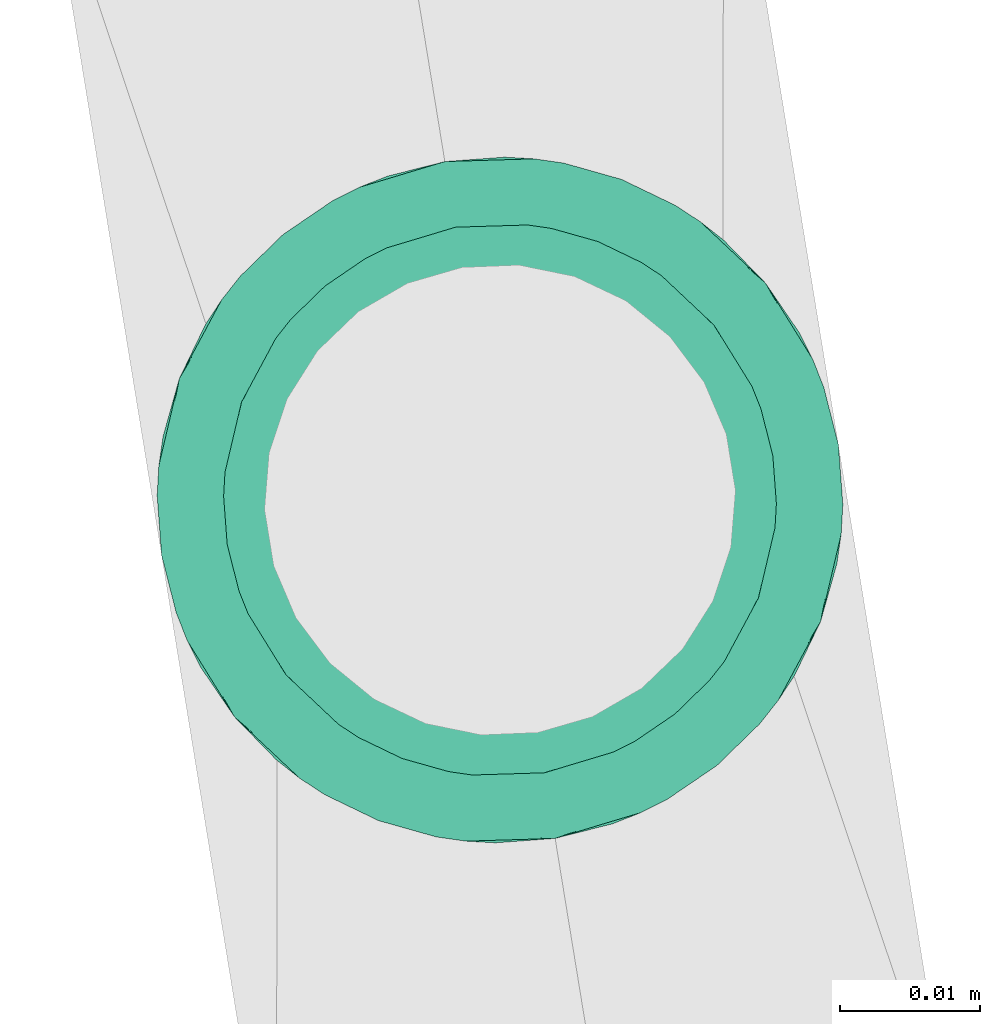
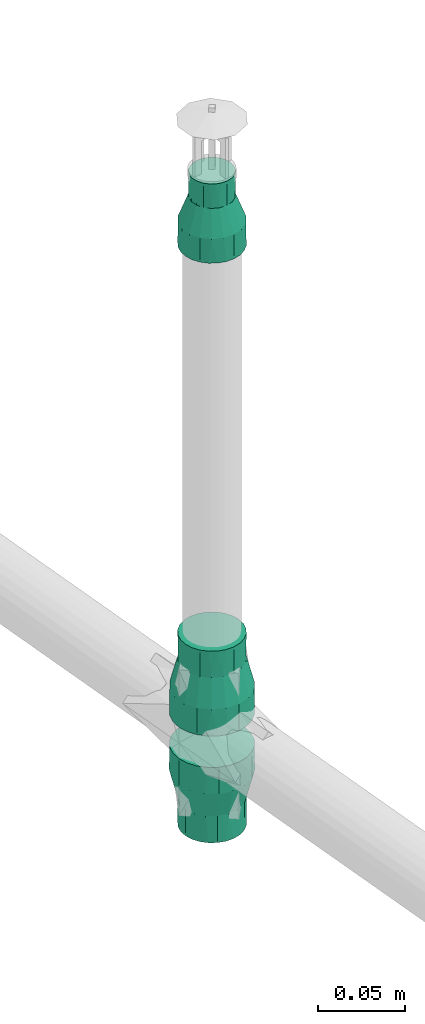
# One storey, part 35 of 56: 3 flow fittings.
"""IFC2X3 building model written with IfcOpenShell, lengths in millimetres."""

from ifc_helpers import new_model, entity, si_unit, converted_unit, derived_unit, direction, frame, origin, origin_with_axes, place, context, subcontext, project, spatial, faceted_brep, source, transform, mapped, material, type_object, element, save


model = new_model("IFC2X3")

# Units and contexts
model_context = context("Model", 3, precision=0.01, world=origin(), true_north=direction((6.12323399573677e-17, 1.0)))
plan_context = context("Plan", 3, precision=1e-05, world=origin_with_axes())
body_context = subcontext(model_context, "Body", "Model", "MODEL_VIEW")
ifc_project = project(units=[converted_unit("PLANEANGLEUNIT", "DEGREE", entity("IfcPositiveLengthMeasure", 0.0174532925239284), si_unit("PLANEANGLEUNIT", "RADIAN"), dimensions=[0, 0, 0, 0, 0, 0, 0]), si_unit("AREAUNIT", "SQUARE_METRE"), si_unit("LENGTHUNIT", "METRE", prefix="MILLI"), si_unit("MASSUNIT", "GRAM", prefix="KILO"), si_unit("POWERUNIT", "WATT"), si_unit("PRESSUREUNIT", "PASCAL", prefix="KILO"), si_unit("FORCEUNIT", "NEWTON", prefix="KILO"), si_unit("ELECTRICVOLTAGEUNIT", "VOLT"), si_unit("ELECTRICCURRENTUNIT", "AMPERE"), si_unit("THERMODYNAMICTEMPERATUREUNIT", "DEGREE_CELSIUS"), si_unit("TIMEUNIT", "SECOND"), si_unit("VOLUMEUNIT", "CUBIC_METRE"), derived_unit("LINEARVELOCITYUNIT", [(si_unit("LENGTHUNIT", "METRE"), 1), (si_unit("TIMEUNIT", "SECOND"), -1)]), derived_unit("VOLUMETRICFLOWRATEUNIT", [(si_unit("VOLUMEUNIT", "CUBIC_METRE"), 1), (si_unit("TIMEUNIT", "SECOND"), -1)]), derived_unit("THERMALTRANSMITTANCEUNIT", [(si_unit("POWERUNIT", "WATT"), 1), (si_unit("THERMODYNAMICTEMPERATUREUNIT", "KELVIN"), -1), (si_unit("AREAUNIT", "SQUARE_METRE"), -1)]), derived_unit("SOUNDPRESSUREUNIT", [(si_unit("PRESSUREUNIT", "PASCAL"), 1)])], contexts=[model_context, plan_context])

# Site, building, storey
site_placement = place(None, frame((-3.09682673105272e-06, 1.93776733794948e-05, 0.0), z_axis=(0.0, 0.0, 1.0), x_axis=(-0.160806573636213, 0.986985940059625, 0.0)))
site = spatial("IfcSite", under=ifc_project, at=site_placement, Name="Default", CompositionType="ELEMENT")
building_placement = place(site_placement, frame((0.0, 0.0, 0.0), z_axis=(0.0, 0.0, 1.0), x_axis=(1.0, -2.77555756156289e-17, 0.0)))
building = spatial("IfcBuilding", under=site, at=building_placement, Name="Bygning (endres i Project Information)", CompositionType="ELEMENT")
storey_placement = place(building_placement, frame((0.0, 0.0, 51360.0000000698), z_axis=(0.0, 0.0, 1.0), x_axis=(1.0, -2.77555756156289e-17, 0.0)))
storey = spatial("IfcBuildingStorey", under=building, at=storey_placement, Name="H01-Nivå D+0,36", CompositionType="ELEMENT", Elevation=51360.0000000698)

# Flow fittings
ifc_material = material(Name="3320.001")
pipe_fitting_type_1 = type_object("IfcPipeFittingType", Name="RS_53_PIF_UN_Reducing-Socket-EN10241_MC_gen:RS_53_PIF_UN_Reducing-Socket-EN10241_MC_gen", PredefinedType="NOTDEFINED", material=ifc_material)
shared_shape_1 = source(origin(), body_context, "Body", "Brep", [
    faceted_brep([(0.0, 5.11167614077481, 19.0770350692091), (0.0, 9.87500000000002, 17.1040017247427), (0.0, 13.9653589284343, 13.9653589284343), (0.0, 17.1040017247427, 9.87499999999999), (0.0, 19.0770350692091, 5.11167614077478), (0.0, 19.75, 0.0), (0.0, 19.0770350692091, -5.1116761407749), (0.0, 17.1040017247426, -9.8750000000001), (0.0, 13.9653589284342, -13.9653589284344), (0.0, 9.87499999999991, -17.1040017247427), (0.0, 5.11167614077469, -19.0770350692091), (0.0, 0.0, -19.75), (0.0, -5.11167614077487, -19.0770350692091), (0.0, -9.87500000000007, -17.1040017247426), (0.0, -13.9653589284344, -13.9653589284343), (0.0, -17.1040017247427, -9.87499999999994), (0.0, -19.0770350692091, -5.11167614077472), (0.0, -19.75, 0.0), (0.0, -19.0770350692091, 5.11167614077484), (0.0, -17.1040017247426, 9.87500000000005), (0.0, -13.9653589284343, 13.9653589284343), (0.0, -9.87499999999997, 17.1040017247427), (0.0, -5.11167614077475, 19.0770350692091), (0.0, 0.0, 19.75), (17.0, -6.65118285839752, -18.277344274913), (17.0, -15.1289479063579, -12.6955675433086), (17.0, -16.8438814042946, -9.72538978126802), (17.0, -18.5588149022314, -6.7552120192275), (17.0, -9.87413131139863, -17.1045032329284), (17.0, -12.5015396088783, -14.9000353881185), (17.0, -19.1544074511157, -3.37760600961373), (17.0, -3.42823440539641, -19.4501853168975), (17.0, 3.43119786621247, -19.4496627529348), (17.0, 0.0014817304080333, -19.4499240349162), (17.0, -19.75, 0.0), (17.0, 6.65396758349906, -18.2763306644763), (17.0, 9.87673730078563, -17.1029985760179), (17.0, 18.5598439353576, -6.75238425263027), (17.0, 16.8453630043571, -9.7228232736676), (17.0, 15.1308820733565, -12.6932622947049), (17.0, 12.5038096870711, -14.8981304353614), (17.0, 19.75, 0.0), (17.0, 15.1308820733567, 12.6932622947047), (17.0, 16.8453630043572, 9.72282327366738), (17.0, 18.5598439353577, 6.75238425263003), (17.0, 9.87673730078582, 17.1029985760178), (17.0, 12.5038096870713, 14.8981304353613), (17.0, 3.43119786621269, 19.4496627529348), (17.0, 6.65396758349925, 18.2763306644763), (17.0, -3.4282344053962, 19.4501853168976), (17.0, 0.00148173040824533, 19.4499240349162), (17.0, -15.1289479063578, 12.6955675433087), (17.0, -6.65118285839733, 18.277344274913), (17.0, -9.87413131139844, 17.1045032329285), (17.0, -12.5015396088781, 14.9000353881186), (17.0, -19.1544074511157, 3.37760600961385), (17.0, -18.5588149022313, 6.75521201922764), (17.0, -16.8438814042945, 9.72538978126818), (34.0, 13.5000000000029, 0.0), (34.0, 12.6868795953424, -4.61444320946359), (34.0, -4.54589529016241, -12.4935366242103), (34.0, -2.34276817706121, -13.2951659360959), (34.0, 6.75195505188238, -11.6902139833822), (34.0, 0.00166747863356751, -13.2948718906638), (34.0, 2.34610313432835, -13.2945778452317), (34.0, 10.3432928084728, -8.67561489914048), (34.0, 8.54762393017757, -10.1829144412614), (34.0, 4.54902909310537, -12.492395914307), (34.0, 11.5150862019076, -6.64502905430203), (34.0, -6.74902240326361, -11.6919073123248), (34.0, -13.4999999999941, 0.0), (34.0, -13.0928608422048, -2.30881275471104), (34.0, -10.3411162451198, -8.6782091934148), (34.0, -8.54506932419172, -10.1850582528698), (34.0, -12.6857216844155, -4.61762550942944), (34.0, -11.5134189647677, -6.64791735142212), (34.0, -13.0928608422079, 2.30881275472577), (34.0, -12.6857216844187, 4.6176255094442), (34.0, 2.34610313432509, 13.2945778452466), (34.0, 4.54902909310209, 12.4923959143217), (34.0, -10.3411162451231, 8.67820919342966), (34.0, 0.00166747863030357, 13.2948718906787), (34.0, -6.74902240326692, 11.6919073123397), (34.0, -8.54506932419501, 10.1850582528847), (34.0, -11.5134189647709, 6.64791735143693), (34.0, -2.34276817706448, 13.2951659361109), (34.0, -4.5458952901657, 12.4935366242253), (34.0, 12.6868795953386, 4.61444320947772), (34.0, 11.5150862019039, 6.64502905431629), (34.0, 10.3432928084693, 8.67561489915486), (34.0, 6.7519550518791, 11.6902139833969), (34.0, 8.54762393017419, 10.1829144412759), (51.0, 3.49405710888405, -13.0399986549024), (51.0, 6.75000000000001, -11.6913429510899), (51.0, 9.5459415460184, -9.54594154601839), (51.0, 11.6913429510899, -6.74999999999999), (51.0, 13.0399986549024, -3.49405710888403), (51.0, 13.5, 0.0), (51.0, 13.0399986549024, 3.49405710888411), (51.0, 11.6913429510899, 6.75000000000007), (51.0, 9.54594154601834, 9.54594154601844), (51.0, 6.74999999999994, 11.69134295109), (51.0, 3.49405710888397, 13.0399986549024), (51.0, 0.0, 13.5), (51.0, -3.49405710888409, 13.0399986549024), (51.0, -6.75000000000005, 11.6913429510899), (51.0, -9.54594154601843, 9.54594154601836), (51.0, -11.6913429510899, 6.74999999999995), (51.0, -13.0399986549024, 3.49405710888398), (51.0, -13.5, 0.0), (51.0, -13.0399986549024, -3.49405710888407), (51.0, -11.6913429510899, -6.75000000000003), (51.0, -9.54594154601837, -9.54594154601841), (51.0, -6.74999999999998, -11.6913429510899), (51.0, -3.49405710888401, -13.0399986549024), (51.0, 0.0, -13.5)], [[[0, 1, 2, 3, 4, 5, 6, 7, 8, 9, 10, 11, 12, 13, 14, 15, 16, 17, 18, 19, 20, 21, 22, 23]], [[24, 13, 12]], [[15, 14, 25]], [[15, 25, 26, 27]], [[28, 29, 13]], [[16, 27, 30]], [[30, 17, 16]], [[15, 27, 16]], [[12, 31, 24]], [[25, 14, 29]], [[11, 32, 33, 31]], [[24, 28, 13]], [[13, 29, 14]], [[30, 34, 17]], [[32, 11, 10]], [[35, 9, 36]], [[7, 37, 38, 39]], [[9, 35, 10]], [[7, 6, 37]], [[8, 39, 40]], [[32, 10, 35]], [[7, 39, 8]], [[40, 36, 9]], [[6, 41, 37]], [[6, 5, 41]], [[11, 31, 12]], [[40, 9, 8]], [[41, 5, 4]], [[3, 2, 42]], [[3, 42, 43, 44]], [[45, 46, 1]], [[44, 41, 4]], [[0, 47, 48]], [[42, 2, 46]], [[23, 49, 50, 47]], [[1, 46, 2]], [[49, 23, 22]], [[19, 51, 20]], [[52, 21, 53]], [[3, 44, 4]], [[48, 45, 1]], [[54, 53, 21]], [[17, 34, 55]], [[21, 52, 22]], [[20, 51, 54]], [[49, 22, 52]], [[48, 1, 0]], [[17, 55, 18]], [[56, 19, 18]], [[18, 55, 56]], [[54, 21, 20]], [[57, 51, 19, 56]], [[23, 47, 0]], [[41, 58, 59]], [[60, 31, 61]], [[40, 62, 36]], [[63, 32, 64]], [[65, 39, 38]], [[64, 32, 35]], [[61, 33, 63]], [[37, 41, 59]], [[62, 40, 66]], [[40, 39, 66]], [[35, 36, 67]], [[65, 38, 68]], [[37, 68, 38]], [[64, 35, 67]], [[61, 31, 33]], [[69, 28, 24]], [[69, 24, 60]], [[70, 30, 71]], [[72, 29, 73]], [[30, 70, 34]], [[74, 27, 26]], [[68, 37, 59]], [[72, 25, 29]], [[27, 74, 71]], [[31, 60, 24]], [[29, 28, 73]], [[75, 26, 25]], [[67, 36, 62]], [[66, 39, 65]], [[27, 71, 30]], [[74, 26, 75]], [[73, 28, 69]], [[63, 33, 32]], [[75, 25, 72]], [[56, 76, 77]], [[48, 78, 79]], [[54, 51, 80]], [[81, 47, 50]], [[57, 56, 77]], [[52, 53, 82]], [[82, 53, 83]], [[55, 70, 76]], [[70, 55, 34]], [[84, 51, 57]], [[50, 85, 81]], [[56, 55, 76]], [[86, 49, 52]], [[83, 53, 54]], [[81, 78, 47]], [[48, 47, 78]], [[80, 51, 84]], [[49, 85, 50]], [[87, 44, 88]], [[87, 58, 41]], [[43, 42, 89]], [[57, 77, 84]], [[46, 45, 90]], [[85, 49, 86]], [[88, 44, 43]], [[54, 80, 83]], [[91, 42, 46]], [[52, 82, 86]], [[89, 42, 91]], [[87, 41, 44]], [[90, 45, 79]], [[46, 90, 91]], [[79, 45, 48]], [[43, 89, 88]], [[92, 93, 94, 95, 96, 97, 98, 99, 100, 101, 102, 103, 104, 105, 106, 107, 108, 109, 110, 111, 112, 113, 114, 115]], [[58, 97, 96]], [[95, 94, 65]], [[95, 65, 68, 59]], [[62, 66, 93]], [[59, 58, 96]], [[92, 64, 67]], [[65, 94, 66]], [[115, 61, 63, 64]], [[93, 66, 94]], [[67, 93, 92]], [[67, 62, 93]], [[95, 59, 96]], [[114, 61, 115]], [[111, 110, 74]], [[73, 113, 112]], [[109, 71, 110]], [[111, 74, 75, 72]], [[109, 70, 71]], [[60, 61, 114]], [[113, 69, 60]], [[111, 72, 112]], [[113, 60, 114]], [[112, 72, 73]], [[115, 64, 92]], [[71, 74, 110]], [[73, 69, 113]], [[86, 105, 104]], [[107, 106, 80]], [[107, 80, 84, 77]], [[82, 83, 105]], [[108, 77, 76]], [[76, 70, 109]], [[76, 109, 108]], [[104, 85, 86]], [[80, 106, 83]], [[103, 78, 81, 85]], [[91, 101, 100]], [[105, 83, 106]], [[86, 82, 105]], [[78, 103, 102]], [[79, 101, 90]], [[99, 87, 88, 89]], [[101, 79, 102]], [[99, 98, 87]], [[100, 89, 91]], [[78, 102, 79]], [[103, 85, 104]], [[99, 89, 100]], [[98, 58, 87]], [[107, 77, 108]], [[98, 97, 58]], [[91, 90, 101]]]),
])
flow_fitting_1_placement = place(storey_placement, frame((997236.263254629, -389286.663841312, 3707.99999993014), z_axis=(2.77555756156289e-17, 1.0, 0.0), x_axis=(0.0, 0.0, 1.0)))
element("IfcFlowFitting", 1, at=flow_fitting_1_placement, inside=storey, type_object=pipe_fitting_type_1, material=ifc_material, Name="RS_53_PIF_UN_Reducing-Socket-EN10241_MC_gen:RS_53_PIF_UN_Reducing-Socket-EN10241_MC_gen", ObjectType="RS_53_PIF_UN_Reducing-Socket-EN10241_MC_gen:RS_53_PIF_UN_Reducing-Socket-EN10241_MC_gen", context=body_context, shape_type="MappedRepresentation", body=[
    mapped(shared_shape_1, transform((0.0, 0.0, 0.0), scale=1.0)),
])
pipe_fitting_type_2 = type_object("IfcPipeFittingType", Name="RS_53_PIF_UN_Reducing-Socket-EN10241_MC_gen:RS_53_PIF_UN_Reducing-Socket-EN10241_MC_gen", PredefinedType="NOTDEFINED", material=ifc_material)
shared_shape_2 = source(origin(), body_context, "Body", "Brep", [
    faceted_brep([(0.0, 0.0, 24.5), (0.0, 6.34106660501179, 23.6651827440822), (0.0, 12.25, 21.2176223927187), (0.0, 17.3241161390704, 17.3241161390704), (0.0, 21.2176223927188, 12.25), (0.0, 23.6651827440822, 6.34106660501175), (0.0, 24.5, 0.0), (0.0, 23.6651827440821, -6.34106660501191), (0.0, 21.2176223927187, -12.2500000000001), (0.0, 17.3241161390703, -17.3241161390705), (0.0, 12.2499999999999, -21.2176223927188), (0.0, 6.34106660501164, -23.6651827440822), (0.0, 0.0, -24.5), (0.0, -6.34106660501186, -23.6651827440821), (0.0, -12.2500000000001, -21.2176223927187), (0.0, -17.3241161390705, -17.3241161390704), (0.0, -21.2176223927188, -12.2499999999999), (0.0, -23.6651827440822, -6.34106660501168), (0.0, -24.5, 0.0), (0.0, -23.6651827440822, 6.34106660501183), (0.0, -21.2176223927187, 12.2500000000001), (0.0, -17.3241161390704, 17.3241161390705), (0.0, -12.25, 21.2176223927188), (0.0, -6.34106660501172, 23.6651827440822), (18.6666666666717, -8.25137606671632, -22.6729794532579), (18.6666666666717, -18.7677686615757, -15.7486780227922), (18.6666666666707, -20.8950763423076, -12.0642027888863), (18.6666666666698, -23.0223840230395, -8.37972755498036), (18.6666666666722, -12.2493529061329, -21.2179959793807), (18.6666666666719, -15.5085607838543, -18.4833370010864), (18.6666666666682, -23.7125607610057, -4.46565710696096), (18.6666666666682, -23.7611920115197, -4.18986377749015), (18.6666666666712, -4.25339922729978, -24.1279629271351), (18.6666666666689, 4.25560674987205, -24.1275736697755), (18.6666666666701, 0.00110376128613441, -24.1277682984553), (18.6666666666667, -24.5, 0.0), (18.6666666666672, 8.25345045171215, -22.6722244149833), (18.6666666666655, 12.2512941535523, -21.2168751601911), (18.6666666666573, 23.0231506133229, -8.37762113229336), (18.6666666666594, 20.8961800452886, -12.062290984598), (18.6666666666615, 18.7692094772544, -15.7469608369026), (18.6666666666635, 15.5102518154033, -18.4819179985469), (18.6666666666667, 24.5, 0.0), (18.6666666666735, 18.7692094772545, 15.7469608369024), (18.666666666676, 20.8961800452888, 12.0622909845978), (18.6666666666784, 23.023150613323, 8.3776211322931), (18.6666666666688, 12.2512941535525, 21.216875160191), (18.6666666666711, 15.5102518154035, 18.4819179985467), (18.6666666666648, 4.25560674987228, 24.1275736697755), (18.6666666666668, 8.25345045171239, 22.6722244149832), (18.6666666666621, -4.25339922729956, 24.1279629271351), (18.6666666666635, 0.00110376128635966, 24.1277682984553), (18.6666666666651, -23.7611920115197, 4.1898637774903), (18.6666666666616, -8.25137606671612, 22.672979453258), (18.666666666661, -12.2493529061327, 21.2179959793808), (18.6666666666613, -15.5085607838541, 18.4833370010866), (18.6666666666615, -18.7677686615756, 15.7486780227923), (18.6666666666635, -23.0223840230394, 8.37972755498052), (18.6666666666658, -23.7125607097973, 4.46565739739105), (18.6666666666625, -20.8950763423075, 12.0642027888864), (37.3333333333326, 19.750000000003, 0.0), (37.3333333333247, 18.5595959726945, -6.75306577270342), (37.3333333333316, 9.87626627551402, -17.1032705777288), (37.3333333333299, 12.5033702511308, -14.8985095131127), (37.3333333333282, 15.1304742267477, -12.6937484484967), (37.3333333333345, 3.43075149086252, -19.4497414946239), (37.333333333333, 6.65350888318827, -18.2765060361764), (37.3333333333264, 16.8450350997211, -9.72340711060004), (37.3333333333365, -3.42859151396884, -19.4501223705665), (37.3333333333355, 0.00107998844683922, -19.4499319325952), (37.3333333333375, -9.87436684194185, -17.1043672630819), (37.333333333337, -6.65147917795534, -18.2772448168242), (37.3333333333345, -19.1544229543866, -3.37756341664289), (37.3333333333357, -18.558845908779, -6.75512683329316), (37.3333333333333, -19.7499999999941, 0.0), (37.3333333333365, -16.8439551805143, -9.72527774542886), (37.3333333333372, -15.1290644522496, -12.6954286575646), (37.3333333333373, -12.5017156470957, -14.8998979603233), (37.3333333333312, -18.5588459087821, 6.755126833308), (37.3333333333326, -19.1544229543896, 3.37756341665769), (37.3333333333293, -15.1290644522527, 12.6954286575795), (37.3333333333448, 18.559595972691, 6.75306577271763), (37.3333333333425, 16.8450350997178, 9.72340711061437), (37.3333333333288, -9.87436684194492, 17.104367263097), (37.3333333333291, -12.5017156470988, 14.8998979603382), (37.3333333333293, -6.65147917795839, 18.2772448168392), (37.3333333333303, -16.8439551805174, 9.72527774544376), (37.333333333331, 0.00107998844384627, 19.4499319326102), (37.3333333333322, 3.43075149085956, 19.4497414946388), (37.3333333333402, 15.1304742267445, 12.6937484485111), (37.333333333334, 6.65350888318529, 18.2765060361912), (37.3333333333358, 9.87626627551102, 17.1032705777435), (37.333333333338, 12.5033702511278, 14.8985095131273), (37.3333333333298, -3.42859151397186, 19.4501223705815), (56.0, 5.11167614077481, -19.0770350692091), (56.0, 9.87500000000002, -17.1040017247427), (56.0, 13.9653589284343, -13.9653589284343), (56.0, 17.1040017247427, -9.87499999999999), (56.0, 19.0770350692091, -5.11167614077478), (56.0, 19.75, 0.0), (56.0, 19.0770350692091, 5.1116761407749), (56.0, 17.1040017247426, 9.8750000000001), (56.0, 13.9653589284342, 13.9653589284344), (56.0, 9.87499999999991, 17.1040017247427), (56.0, 5.11167614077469, 19.0770350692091), (56.0, 0.0, 19.75), (56.0, -5.11167614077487, 19.0770350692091), (56.0, -9.87500000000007, 17.1040017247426), (56.0, -13.9653589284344, 13.9653589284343), (56.0, -17.1040017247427, 9.87499999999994), (56.0, -19.0770350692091, 5.11167614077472), (56.0, -19.75, 0.0), (56.0, -19.0770350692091, -5.11167614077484), (56.0, -17.1040017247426, -9.87500000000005), (56.0, -13.9653589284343, -13.9653589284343), (56.0, -9.87499999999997, -17.1040017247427), (56.0, -5.11167614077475, -19.0770350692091), (56.0, 0.0, -19.75)], [[[0, 1, 2, 3, 4, 5, 6, 7, 8, 9, 10, 11, 12, 13, 14, 15, 16, 17, 18, 19, 20, 21, 22, 23]], [[24, 14, 13]], [[16, 15, 25]], [[16, 25, 26, 27]], [[28, 29, 14]], [[17, 27, 30, 31]], [[31, 18, 17]], [[16, 27, 17]], [[13, 32, 24]], [[25, 15, 29]], [[12, 33, 34, 32]], [[24, 28, 14]], [[14, 29, 15]], [[31, 35, 18]], [[33, 12, 11]], [[36, 10, 37]], [[8, 38, 39, 40]], [[10, 36, 11]], [[8, 7, 38]], [[9, 40, 41]], [[33, 11, 36]], [[8, 40, 9]], [[41, 37, 10]], [[7, 42, 38]], [[7, 6, 42]], [[12, 32, 13]], [[41, 10, 9]], [[42, 6, 5]], [[4, 3, 43]], [[4, 43, 44, 45]], [[46, 47, 2]], [[45, 42, 5]], [[1, 48, 49]], [[43, 3, 47]], [[0, 50, 51, 48]], [[2, 47, 3]], [[50, 0, 23]], [[0, 48, 1]], [[18, 52, 19]], [[53, 22, 54]], [[49, 2, 1]], [[55, 22, 21]], [[35, 52, 18]], [[4, 45, 5]], [[22, 53, 23]], [[21, 56, 55]], [[50, 23, 53]], [[49, 46, 2]], [[20, 56, 21]], [[57, 20, 19]], [[19, 52, 58, 57]], [[55, 54, 22]], [[59, 56, 20, 57]], [[42, 60, 61]], [[41, 62, 37]], [[63, 40, 64]], [[40, 39, 64]], [[33, 36, 65]], [[65, 36, 66]], [[38, 42, 61]], [[64, 39, 67]], [[41, 40, 63]], [[36, 37, 66]], [[62, 41, 63]], [[38, 67, 39]], [[68, 34, 69]], [[68, 32, 34]], [[24, 70, 28]], [[32, 68, 71]], [[72, 35, 31, 30]], [[73, 27, 26]], [[72, 74, 35]], [[26, 75, 73]], [[76, 25, 29]], [[29, 77, 76]], [[70, 24, 71]], [[24, 32, 71]], [[70, 77, 28]], [[76, 75, 25]], [[28, 77, 29]], [[25, 75, 26]], [[73, 30, 27]], [[30, 73, 72]], [[66, 37, 62]], [[69, 34, 33]], [[69, 33, 65]], [[67, 38, 61]], [[78, 58, 79]], [[80, 55, 56]], [[81, 45, 82]], [[78, 59, 57]], [[83, 53, 54]], [[55, 80, 84]], [[79, 58, 52, 35]], [[78, 57, 58]], [[84, 54, 55]], [[85, 50, 53]], [[79, 35, 74]], [[86, 56, 59]], [[84, 83, 54]], [[48, 87, 88]], [[49, 48, 88]], [[59, 78, 86]], [[53, 83, 85]], [[87, 48, 51]], [[81, 60, 42]], [[44, 43, 89]], [[90, 46, 49]], [[47, 46, 91]], [[86, 80, 56]], [[82, 45, 44]], [[49, 88, 90]], [[92, 43, 47]], [[91, 46, 90]], [[51, 50, 93]], [[42, 45, 81]], [[85, 93, 50]], [[44, 89, 82]], [[51, 93, 87]], [[47, 91, 92]], [[89, 43, 92]], [[94, 95, 96, 97, 98, 99, 100, 101, 102, 103, 104, 105, 106, 107, 108, 109, 110, 111, 112, 113, 114, 115, 116, 117]], [[60, 99, 98]], [[97, 96, 64]], [[97, 64, 67, 61]], [[62, 63, 95]], [[61, 60, 98]], [[94, 65, 66]], [[64, 96, 63]], [[117, 68, 69, 65]], [[95, 63, 96]], [[117, 116, 68]], [[77, 70, 115]], [[66, 95, 94]], [[115, 70, 71]], [[113, 112, 73]], [[115, 71, 116]], [[117, 65, 94]], [[97, 61, 98]], [[72, 111, 74]], [[71, 68, 116]], [[113, 76, 114]], [[114, 76, 77]], [[77, 115, 114]], [[113, 73, 75, 76]], [[111, 72, 112]], [[66, 62, 95]], [[72, 73, 112]], [[85, 107, 106]], [[109, 108, 80]], [[109, 80, 86, 78]], [[83, 84, 107]], [[110, 78, 79]], [[79, 111, 110]], [[109, 78, 110]], [[106, 93, 85]], [[80, 108, 84]], [[105, 88, 87, 93]], [[85, 83, 107]], [[107, 84, 108]], [[79, 74, 111]], [[88, 105, 104]], [[90, 103, 91]], [[101, 81, 82, 89]], [[103, 90, 104]], [[101, 100, 81]], [[102, 89, 92]], [[88, 104, 90]], [[101, 89, 102]], [[92, 91, 103]], [[100, 60, 81]], [[100, 99, 60]], [[105, 93, 106]], [[92, 103, 102]]]),
])
flow_fitting_2_placement = place(storey_placement, frame((997236.263254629, -389286.663841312, 3380.93333333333), z_axis=(2.77555756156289e-17, 1.0, 0.0), x_axis=(0.0, 0.0, 1.0)))
element("IfcFlowFitting", 2, at=flow_fitting_2_placement, inside=storey, type_object=pipe_fitting_type_2, material=ifc_material, Name="RS_53_PIF_UN_Reducing-Socket-EN10241_MC_gen:RS_53_PIF_UN_Reducing-Socket-EN10241_MC_gen", ObjectType="RS_53_PIF_UN_Reducing-Socket-EN10241_MC_gen:RS_53_PIF_UN_Reducing-Socket-EN10241_MC_gen", context=body_context, shape_type="MappedRepresentation", body=[
    mapped(shared_shape_2, transform((0.0, 0.0, 0.0), scale=1.0)),
])
pipe_fitting_type_3 = type_object("IfcPipeFittingType", Name="RS_53_PIF_UN_Reducing-Socket-EN10241_MC_gen:RS_53_PIF_UN_Reducing-Socket-EN10241_MC_gen", PredefinedType="NOTDEFINED", material=ifc_material)
shared_shape_3 = source(origin(), body_context, "Body", "Brep", [
    faceted_brep([(0.0, -12.25, 21.2176223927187), (0.0, -6.34106660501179, 23.6651827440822), (0.0, 0.0, 24.5), (0.0, 6.34106660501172, 23.6651827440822), (0.0, 12.25, 21.2176223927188), (0.0, 17.3241161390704, 17.3241161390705), (0.0, 21.2176223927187, 12.2500000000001), (0.0, 23.6651827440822, 6.34106660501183), (0.0, 24.5, 0.0), (0.0, 23.6651827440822, -6.34106660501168), (0.0, 21.2176223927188, -12.2499999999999), (0.0, 17.3241161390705, -17.3241161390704), (0.0, 12.2500000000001, -21.2176223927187), (0.0, 6.34106660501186, -23.6651827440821), (0.0, 0.0, -24.5), (0.0, -6.34106660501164, -23.6651827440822), (0.0, -12.2499999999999, -21.2176223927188), (0.0, -17.3241161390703, -17.3241161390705), (0.0, -21.2176223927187, -12.2500000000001), (0.0, -23.6651827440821, -6.34106660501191), (0.0, -24.5, 0.0), (0.0, -23.6651827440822, 6.34106660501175), (0.0, -21.2176223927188, 12.25), (0.0, -17.3241161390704, 17.3241161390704), (18.6666666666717, 8.25137606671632, -22.6729794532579), (18.6666666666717, 18.7677686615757, -15.7486780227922), (18.6666666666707, 20.8950763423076, -12.0642027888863), (18.6666666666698, 23.0223840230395, -8.37972755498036), (18.6666666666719, 15.5085607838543, -18.4833370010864), (18.6666666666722, 12.2493529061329, -21.2179959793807), (18.6666666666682, 23.7611920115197, -4.18986377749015), (18.6666666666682, 23.7125607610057, -4.46565710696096), (18.6666666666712, 4.25339922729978, -24.1279629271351), (18.6666666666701, -0.00110376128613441, -24.1277682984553), (18.6666666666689, -4.25560674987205, -24.1275736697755), (18.6666666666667, 24.5, 0.0), (18.6666666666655, -12.2512941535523, -21.2168751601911), (18.6666666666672, -8.25345045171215, -22.6722244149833), (18.6666666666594, -20.8961800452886, -12.062290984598), (18.6666666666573, -23.0231506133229, -8.37762113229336), (18.6666666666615, -18.7692094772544, -15.7469608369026), (18.6666666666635, -15.5102518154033, -18.4819179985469), (18.6666666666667, -24.5, 0.0), (18.6666666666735, -18.7692094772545, 15.7469608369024), (18.666666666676, -20.8961800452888, 12.0622909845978), (18.6666666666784, -23.023150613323, 8.3776211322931), (18.6666666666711, -15.5102518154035, 18.4819179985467), (18.6666666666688, -12.2512941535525, 21.216875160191), (18.6666666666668, -8.25345045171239, 22.6722244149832), (18.6666666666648, -4.25560674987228, 24.1275736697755), (18.6666666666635, -0.00110376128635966, 24.1277682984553), (18.6666666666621, 4.25339922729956, 24.1279629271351), (18.6666666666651, 23.7611920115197, 4.1898637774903), (18.666666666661, 12.2493529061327, 21.2179959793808), (18.6666666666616, 8.25137606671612, 22.672979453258), (18.6666666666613, 15.5085607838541, 18.4833370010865), (18.6666666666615, 18.7677686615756, 15.7486780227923), (18.6666666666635, 23.0223840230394, 8.37972755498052), (18.6666666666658, 23.7125607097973, 4.46565739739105), (18.6666666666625, 20.8950763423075, 12.0642027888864), (37.3333333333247, -18.5595959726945, -6.75306577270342), (37.3333333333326, -19.750000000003, 0.0), (37.3333333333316, -9.87626627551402, -17.1032705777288), (37.3333333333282, -15.1304742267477, -12.6937484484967), (37.3333333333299, -12.5033702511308, -14.8985095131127), (37.3333333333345, -3.43075149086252, -19.4497414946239), (37.333333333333, -6.65350888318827, -18.2765060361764), (37.3333333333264, -16.8450350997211, -9.72340711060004), (37.3333333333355, -0.00107998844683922, -19.4499319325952), (37.3333333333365, 3.42859151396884, -19.4501223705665), (37.3333333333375, 9.87436684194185, -17.1043672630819), (37.333333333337, 6.65147917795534, -18.2772448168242), (37.3333333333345, 19.1544229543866, -3.37756341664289), (37.3333333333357, 18.558845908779, -6.75512683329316), (37.3333333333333, 19.7499999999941, 0.0), (37.3333333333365, 16.8439551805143, -9.72527774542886), (37.3333333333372, 15.1290644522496, -12.6954286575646), (37.3333333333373, 12.5017156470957, -14.8998979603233), (37.3333333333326, 19.1544229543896, 3.37756341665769), (37.3333333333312, 18.5588459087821, 6.755126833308), (37.3333333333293, 15.1290644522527, 12.6954286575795), (37.3333333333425, -16.8450350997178, 9.72340711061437), (37.3333333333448, -18.559595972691, 6.75306577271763), (37.3333333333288, 9.87436684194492, 17.104367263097), (37.3333333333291, 12.5017156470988, 14.8998979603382), (37.3333333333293, 6.65147917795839, 18.2772448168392), (37.3333333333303, 16.8439551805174, 9.72527774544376), (37.3333333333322, -3.43075149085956, 19.4497414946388), (37.333333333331, -0.00107998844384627, 19.4499319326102), (37.3333333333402, -15.1304742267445, 12.6937484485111), (37.333333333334, -6.65350888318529, 18.2765060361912), (37.3333333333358, -9.87626627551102, 17.1032705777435), (37.333333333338, -12.5033702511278, 14.8985095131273), (37.3333333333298, 3.42859151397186, 19.4501223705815), (56.0, 0.0, -19.75), (56.0, 5.11167614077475, -19.0770350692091), (56.0, 9.87499999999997, -17.1040017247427), (56.0, 13.9653589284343, -13.9653589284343), (56.0, 17.1040017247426, -9.87500000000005), (56.0, 19.0770350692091, -5.11167614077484), (56.0, 19.75, 0.0), (56.0, 19.0770350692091, 5.11167614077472), (56.0, 17.1040017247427, 9.87499999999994), (56.0, 13.9653589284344, 13.9653589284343), (56.0, 9.87500000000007, 17.1040017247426), (56.0, 5.11167614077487, 19.0770350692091), (56.0, 0.0, 19.75), (56.0, -5.11167614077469, 19.0770350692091), (56.0, -9.87499999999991, 17.1040017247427), (56.0, -13.9653589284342, 13.9653589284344), (56.0, -17.1040017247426, 9.8750000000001), (56.0, -19.0770350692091, 5.1116761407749), (56.0, -19.75, 0.0), (56.0, -19.0770350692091, -5.11167614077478), (56.0, -17.1040017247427, -9.87499999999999), (56.0, -13.9653589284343, -13.9653589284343), (56.0, -9.87500000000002, -17.1040017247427), (56.0, -5.11167614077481, -19.0770350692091)], [[[0, 1, 2, 3, 4, 5, 6, 7, 8, 9, 10, 11, 12, 13, 14, 15, 16, 17, 18, 19, 20, 21, 22, 23]], [[13, 12, 24]], [[25, 11, 10]], [[26, 25, 10, 27]], [[12, 28, 29]], [[9, 30, 31, 27]], [[9, 8, 30]], [[9, 27, 10]], [[24, 32, 13]], [[28, 11, 25]], [[33, 34, 14, 32]], [[12, 29, 24]], [[11, 28, 12]], [[8, 35, 30]], [[15, 14, 34]], [[36, 16, 37]], [[38, 39, 18, 40]], [[15, 37, 16]], [[39, 19, 18]], [[41, 40, 17]], [[37, 15, 34]], [[17, 40, 18]], [[16, 36, 41]], [[39, 42, 19]], [[42, 20, 19]], [[13, 32, 14]], [[17, 16, 41]], [[21, 20, 42]], [[43, 23, 22]], [[44, 43, 22, 45]], [[0, 46, 47]], [[21, 42, 45]], [[48, 49, 1]], [[46, 23, 43]], [[50, 51, 2, 49]], [[23, 46, 0]], [[3, 2, 51]], [[1, 49, 2]], [[7, 52, 8]], [[53, 4, 54]], [[1, 0, 48]], [[5, 4, 55]], [[8, 52, 35]], [[21, 45, 22]], [[3, 54, 4]], [[55, 56, 5]], [[54, 3, 51]], [[0, 47, 48]], [[5, 56, 6]], [[7, 6, 57]], [[7, 57, 58, 52]], [[4, 53, 55]], [[6, 56, 59, 57]], [[60, 61, 42]], [[36, 62, 41]], [[63, 40, 64]], [[63, 38, 40]], [[65, 37, 34]], [[66, 37, 65]], [[60, 42, 39]], [[67, 38, 63]], [[64, 40, 41]], [[66, 36, 37]], [[64, 41, 62]], [[38, 67, 39]], [[68, 33, 69]], [[33, 32, 69]], [[29, 70, 24]], [[71, 69, 32]], [[72, 31, 30, 35]], [[26, 27, 73]], [[35, 74, 72]], [[73, 75, 26]], [[28, 25, 76]], [[76, 77, 28]], [[71, 24, 70]], [[71, 32, 24]], [[29, 77, 70]], [[25, 75, 76]], [[28, 77, 29]], [[26, 75, 25]], [[27, 31, 73]], [[72, 73, 31]], [[62, 36, 66]], [[34, 33, 68]], [[65, 34, 68]], [[60, 39, 67]], [[78, 58, 79]], [[56, 55, 80]], [[81, 45, 82]], [[57, 59, 79]], [[53, 54, 83]], [[84, 80, 55]], [[78, 35, 52, 58]], [[58, 57, 79]], [[55, 53, 84]], [[54, 51, 85]], [[74, 35, 78]], [[59, 56, 86]], [[53, 83, 84]], [[87, 88, 49]], [[87, 49, 48]], [[86, 79, 59]], [[85, 83, 54]], [[50, 49, 88]], [[42, 61, 82]], [[89, 43, 44]], [[48, 47, 90]], [[91, 47, 46]], [[56, 80, 86]], [[44, 45, 81]], [[90, 87, 48]], [[46, 43, 92]], [[90, 47, 91]], [[93, 51, 50]], [[82, 45, 42]], [[51, 93, 85]], [[81, 89, 44]], [[88, 93, 50]], [[92, 91, 46]], [[92, 43, 89]], [[94, 95, 96, 97, 98, 99, 100, 101, 102, 103, 104, 105, 106, 107, 108, 109, 110, 111, 112, 113, 114, 115, 116, 117]], [[113, 112, 61]], [[63, 115, 114]], [[67, 63, 114, 60]], [[116, 64, 62]], [[113, 61, 60]], [[66, 65, 117]], [[64, 115, 63]], [[68, 69, 94, 65]], [[115, 64, 116]], [[69, 95, 94]], [[96, 70, 77]], [[117, 116, 66]], [[71, 70, 96]], [[73, 99, 98]], [[95, 71, 96]], [[117, 65, 94]], [[113, 60, 114]], [[74, 100, 72]], [[95, 69, 71]], [[97, 76, 98]], [[77, 76, 97]], [[97, 96, 77]], [[75, 73, 98, 76]], [[99, 72, 100]], [[116, 62, 66]], [[99, 73, 72]], [[105, 104, 85]], [[80, 103, 102]], [[86, 80, 102, 79]], [[104, 84, 83]], [[78, 79, 101]], [[101, 100, 78]], [[101, 79, 102]], [[85, 93, 105]], [[84, 103, 80]], [[88, 87, 106, 93]], [[104, 83, 85]], [[103, 84, 104]], [[100, 74, 78]], [[107, 106, 87]], [[91, 108, 90]], [[81, 82, 110, 89]], [[107, 90, 108]], [[82, 111, 110]], [[92, 89, 109]], [[90, 107, 87]], [[109, 89, 110]], [[108, 91, 92]], [[82, 61, 111]], [[61, 112, 111]], [[105, 93, 106]], [[109, 108, 92]]]),
])
flow_fitting_3_placement = place(storey_placement, frame((997236.263254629, -389286.663841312, 3359.06666666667), z_axis=(1.0, -2.77555756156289e-17, 0.0), x_axis=(0.0, 0.0, -1.0)))
element("IfcFlowFitting", 3, at=flow_fitting_3_placement, inside=storey, type_object=pipe_fitting_type_3, material=ifc_material, Name="RS_53_PIF_UN_Reducing-Socket-EN10241_MC_gen:RS_53_PIF_UN_Reducing-Socket-EN10241_MC_gen", ObjectType="RS_53_PIF_UN_Reducing-Socket-EN10241_MC_gen:RS_53_PIF_UN_Reducing-Socket-EN10241_MC_gen", context=body_context, shape_type="MappedRepresentation", body=[
    mapped(shared_shape_3, transform((0.0, 0.0, 0.0), scale=1.0)),
])

save(model, "model.ifc")
